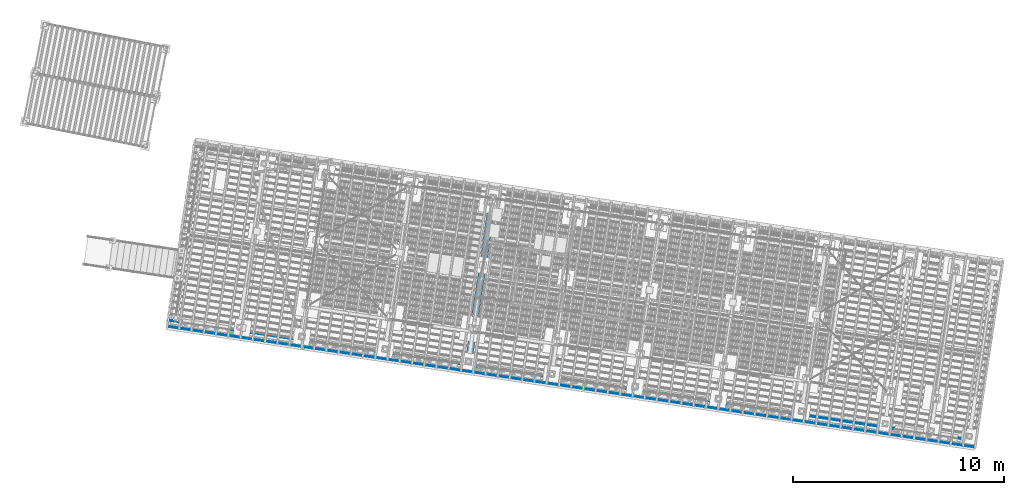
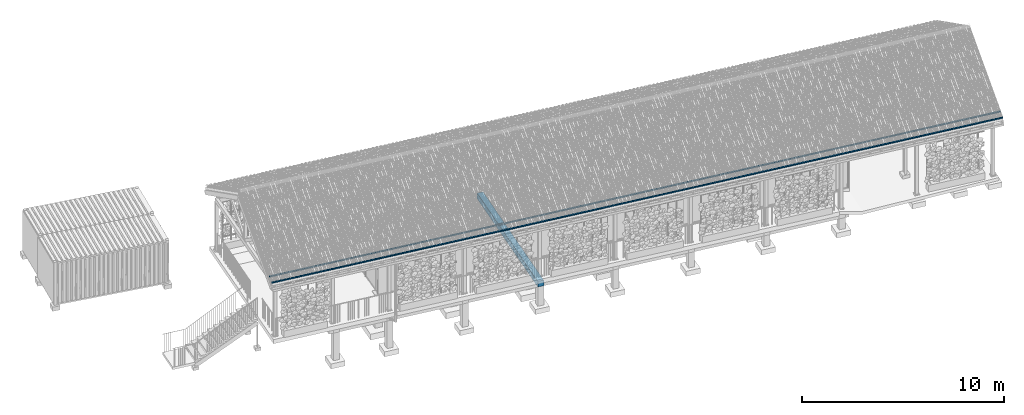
# One storey, part 59 of 131: 2 members, 1 beam, 2 elements without a shape of their own.
"""IFC4 building model written with IfcOpenShell, lengths in metres."""

from ifc_helpers import new_model, si_unit, direction, frame, origin_with_axes, place, context, subcontext, project, spatial, polyline, rectangle, outline, extrude, material, material_profile, profile_set, profile_usage, type_object, element, aggregate, save


model = new_model("IFC4")

# Units and contexts
model_context = context("Model", 3, precision=1e-05, world=origin_with_axes(), true_north=direction((0.0, 1.0)))
body_context = subcontext(model_context, "Body", "Model", "MODEL_VIEW")
ifc_project = project(units=[si_unit("VOLUMEUNIT", "CUBIC_METRE"), si_unit("LENGTHUNIT", "METRE"), si_unit("AREAUNIT", "SQUARE_METRE")], contexts=[model_context])

# Site, building, storey
site_placement = place(None, origin_with_axes())
site = spatial("IfcSite", under=ifc_project, at=site_placement, Name="Lares · Rua das Mercês · artigo 4771")
building_placement = place(site_placement, frame((15.0, 9.7, 14.65), z_axis=(0.0, 0.0, 1.0), x_axis=(0.989015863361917, -0.147809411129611, 0.0)))
building = spatial("IfcBuilding", under=site, at=building_placement, Name="Casa Sobreposta")
storey_placement = place(building_placement, origin_with_axes())
storey = spatial("IfcBuildingStorey", under=building, at=storey_placement, Name="00 · Habitação e estacionamento", Elevation=14.65)

# Roof, members
ifc_material_1 = material(Name="Madeira / Bauholz", Category="wood")
roof_placement = place(storey_placement, origin_with_axes())
roof = element("IfcRoof", 1, at=roof_placement, inside=storey, material=ifc_material_1, Name="Cobertura de telha · duas águas 30 graus", PredefinedType="GABLE_ROOF")
ifc_material_profile = material_profile(ifc_material_1, rectangle(XDim=0.045, YDim=0.06))
ifc_profile_set = profile_set([ifc_material_profile], Name="TIMBER0.045x0.060")
ifc_profile_usage_1 = profile_usage(ifc_profile_set)
member_type = type_object("IfcMemberType", Name="TIMBER0.045x0.060 / timber", PredefinedType="NOTDEFINED", material=ifc_profile_set)
member_1_placement = place(roof_placement, frame((-6.4, -1.9, 3.534), z_axis=(1.0, 0.0, 0.0), x_axis=(0.0, -1.0, 0.0)))
member_1 = element("IfcMember", 2, at=member_1_placement, type_object=member_type, material=ifc_profile_usage_1, Name="Cobertura · ripa ventilada", context=body_context, shape_type="SweptSolid", body=[
    extrude(rectangle(XDim=0.045, YDim=0.06), origin_with_axes(), (0.0, 0.0, 1.0), 38.8),
])
ifc_profile_usage_2 = profile_usage(ifc_profile_set)
member_2_placement = place(roof_placement, frame((-6.4, -1.6, 3.70720508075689), z_axis=(1.0, 0.0, 0.0), x_axis=(0.0, -1.0, 0.0)))
member_2 = element("IfcMember", 3, at=member_2_placement, type_object=member_type, material=ifc_profile_usage_2, Name="Cobertura · ripa ventilada", context=body_context, shape_type="SweptSolid", body=[
    extrude(rectangle(XDim=0.045, YDim=0.06), origin_with_axes(), (0.0, 0.0, 1.0), 38.8),
])
aggregate(roof, [member_1, member_2])

# Assembly, beam
assembly_placement = place(storey_placement, origin_with_axes())
assembly = element("IfcElementAssembly", 4, at=assembly_placement, inside=storey, Name="Pódio · terraço, casa térrea e cisterna", ObjectType="CISTERN_PODIUM", PredefinedType="USERDEFINED")
ifc_material_2 = material(Name="Betão armado / Stahlbeton", Category="concrete")
beam_placement = place(assembly_placement, frame((0.0, 0.0, -0.59), z_axis=(0.0, 0.0, 1.0), x_axis=(1.0, 0.0, 0.0)))
beam = element("IfcBeam", 5, at=beam_placement, material=ifc_material_2, Name="Pódio suspenso · viga transversal", context=body_context, shape_type="SweptSolid", body=[
    extrude(outline(polyline([(8.16, -1.59), (8.16, 6.59), (7.84, 6.59), (7.84, -1.59), (8.16, -1.59)])), origin_with_axes(), (0.0, 0.0, 1.0), 0.34),
])
aggregate(assembly, [beam])

save(model, "model.ifc")
